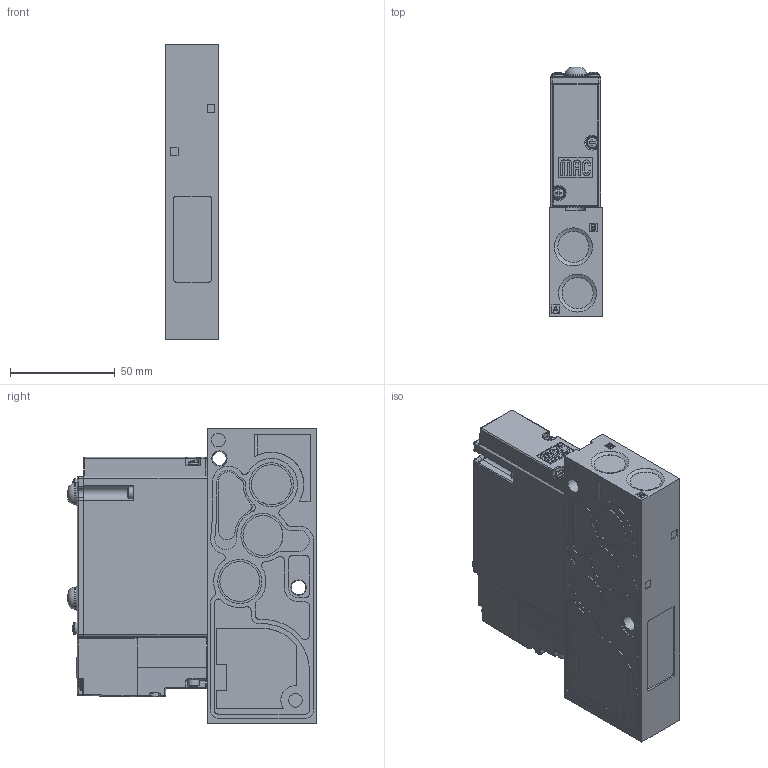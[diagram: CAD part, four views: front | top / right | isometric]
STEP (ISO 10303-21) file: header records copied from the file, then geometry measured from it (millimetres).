
FILE_DESCRIPTION (( 'STEP AP214' ), '1' );
FILE_NAME ('92A-AAA-C1J-DM-DXXP-YZZ.STEP', '2019-07-05T15:02:57', ( 'user' ), ( '' ), 'SwSTEP 2.0', 'SolidWorks 2014', '' );
FILE_SCHEMA (( 'AUTOMOTIVE_DESIGN' ));
Length unit declared in the file: millimetre
Products named in the file (6): 92-OPERATOR-DXXP-YDM; 92-PILOT-DM; 92-BODY-AAA; 92-BASE-C1J; 92A-AAA-C1J-DM-DXXP-YZZ; 92-OVERRIDE-1
Assembly tree (5 placements, depth 2):
  92A-AAA-C1J-DM-DXXP-YZZ
    92-BASE-C1J
    92-BODY-AAA
    92-PILOT-DM
    92-OPERATOR-DXXP-YDM
    92-OVERRIDE-1
Bounding box: 25.5 x 118.6 x 141 mm (x, y, z)
Volume: 328310.2 mm3; surface area: 70944 mm2
Topology: 24 solids, 28 shells, 2037 faces, 5220 edges, 3388 vertices
Faces by surface type: plane 1073, cylinder 618, cone 169, bspline 95, torus 44, sphere 38
Full cylindrical faces by diameter (mm): 0.01 x2, 0.72 x1, 0.74 x1, 0.85 x1, 0.95 x2, 1 x1, 2 x2, 2.2 x2, 2.4 x2, 2.5 x2, 2.6 x2, 2.7 x1, 2.79 x4, 3 x10, 3.15 x2, 3.25 x2, 3.3 x4, 3.35 x2, 3.6 x1, 4.775 x2, 5 x1, 5.1 x1, 5.5 x8, 5.6 x1, 6.22 x1, 6.8 x2, 6.92 x1, 7 x1, 7.135 x1, 9.5 x2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
Entity records: 87166 total; most frequent: CARTESIAN_POINT 15491, ORIENTED_EDGE 10072, DIRECTION 10033, EDGE_CURVE 5036, AXIS2_PLACEMENT_3D 3502, VERTEX_POINT 3365, LINE 3029, VECTOR 3029
